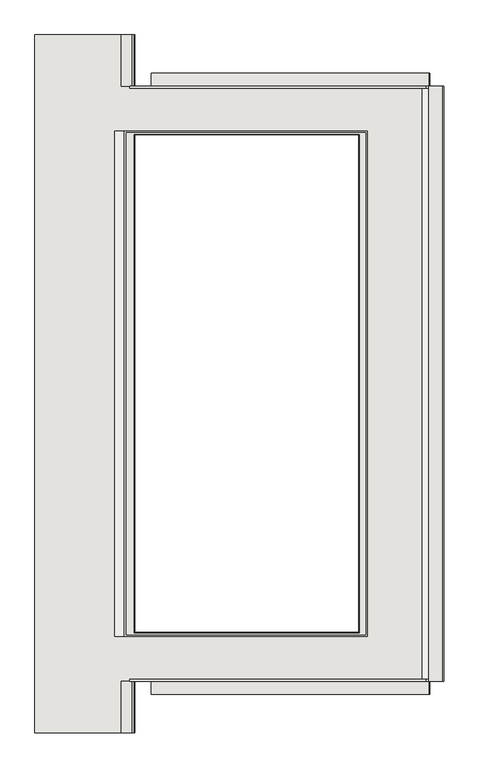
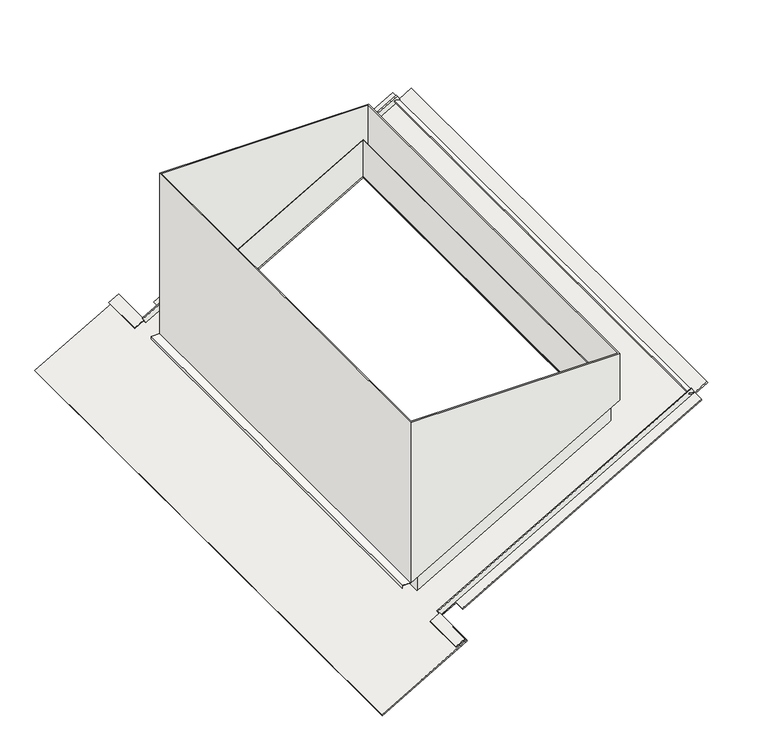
"""IFC4 building model written with IfcOpenShell, lengths in millimetres: covering geometry, MG_BPL_Delta Discovery Air_mountingbox-CO_M&G : mountingbox DDA."""

from ifc_helpers import new_model, si_unit, frame, origin, place, context, project, spatial, polyline, outline, extrude, faceted_brep, source, transform, mapped, element, save


def covering_b66512e7(model_context):
    return source(origin(), model_context, "Body", "SolidModel", [
        extrude(outline(polyline([(0.0, 0.0), (0.0, -350.0), (-157.5, -350.0), (-157.5, -410.0), (-117.5, -410.0), (-117.5, -1390.9698687), (-157.5, -1390.9698687), (-157.5, -1440.9698687), (-1977.5, -1440.9698687), (-1977.5, -1390.9698687), (-2017.5, -1390.9698687), (-2017.5, -410.0), (-1977.5, -410.0), (-1977.5, -350.0), (-2135.0, -350.0), (-2135.0, 0.0), (0.0, 0.0)]), holes=[polyline([(-1827.5, -350.0), (-1827.5, -1140.9698688), (-307.5, -1140.9698688), (-307.5, -350.0), (-1827.5, -350.0)])]), frame((-303.1088913, 1067.5, -175.0), z_axis=(-0.4999999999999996, 0.0, 0.8660254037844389), x_axis=(0.0, 1.0, 0.0)), (0.0, 0.0, 1.0), 5.0),
        faceted_brep([(0.0, 760.0, 140.8734657), (0.0, 760.0, 0.0), (684.0, 760.0, 394.9075841), (684.0, 760.0, 535.7810498), (0.0, -760.0, 140.8734657), (0.0, -760.0, 0.0), (684.0, -760.0, 535.7810498), (684.0, -760.0, 394.9075841), (685.9866683, 762.0, 536.9280533), (685.9866683, 762.0, 396.0545876), (-2.0066659, 762.0, -1.1585491), (-2.0066659, 762.0, 139.7149166), (-2.0066659, -762.0, -1.1585491), (-2.0066659, -762.0, 139.7149166), (685.9866683, -762.0, 396.0545876), (685.9866683, -762.0, 536.9280533)], [[[0, 1, 2, 3]], [[1, 0, 4, 5]], [[5, 4, 6, 7]], [[7, 6, 3, 2]], [[8, 9, 10, 11]], [[11, 10, 12, 13]], [[13, 12, 14, 15]], [[9, 8, 15, 14]], [[10, 9, 14, 12], [2, 1, 5, 7]], [[8, 11, 13, 15], [0, 3, 6, 4]]]),
        faceted_brep([(710.9866683, -773.0, 654.7703766), (710.9866683, -773.0, 479.7703766), (710.9866683, 773.0, 479.7703766), (710.9866683, 773.0, 654.7703766), (-32.0066659, 773.0, 50.8029751), (-32.0066659, 773.0, 654.7703766), (-32.0066659, -773.0, 50.8029751), (-32.0066659, -773.0, 654.7703766), (-27.0066659, -768.0, 654.7703766), (-27.0066659, -768.0, 53.6897265), (-27.0066659, 768.0, 53.6897265), (-27.0066659, 768.0, 654.7703766), (705.9866683, 768.0, 476.8836253), (705.9866683, 768.0, 654.7703766), (705.9866683, -768.0, 476.8836253), (705.9866683, -768.0, 654.7703766)], [[[0, 1, 2, 3]], [[3, 2, 4, 5]], [[5, 4, 6, 7]], [[1, 0, 7, 6]], [[8, 9, 10, 11]], [[11, 10, 12, 13]], [[13, 12, 14, 15]], [[9, 8, 15, 14]], [[2, 1, 6, 4], [10, 9, 14, 12]], [[0, 3, 5, 7], [8, 11, 13, 15]]]),
        extrude(outline(polyline([(12.9903811, -7.5), (-7.0096189, -42.1410162), (-9.6076952, -40.6410162), (8.8923048, -8.5980762), (2.830127, -5.0980762), (4.330127, -2.5), (12.9903811, -7.5)])), frame((0.0, -1067.5, 0.0), z_axis=(0.0, 1.0, 0.0), x_axis=(0.0, 0.0, 1.0)), (0.0, 0.0, 1.0), 157.5),
        extrude(outline(polyline([(12.9903811, -7.5), (-7.0096189, -42.1410162), (-9.6076952, -40.6410162), (8.8923048, -8.5980762), (2.830127, -5.0980762), (4.330127, -2.5), (12.9903811, -7.5)])), frame((0.0, 910.0, 0.0), z_axis=(0.0, 1.0, 0.0), x_axis=(0.0, 0.0, 1.0)), (0.0, 0.0, 1.0), 157.5),
        extrude(outline(polyline([(51.8029751, -62.0066659), (41.8029751, -62.0066659), (41.8029751, -61.0066659), (50.8029751, -61.0066659), (50.8029751, -32.0066659), (51.8029751, -32.0066659), (51.8029751, -62.0066659)])), frame((0.0, -773.0, 0.0), z_axis=(0.0, 1.0, 0.0), x_axis=(0.0, 0.0, 1.0)), (0.0, 0.0, 1.0), 1546.0),
        extrude(outline(polyline([(0.0, -20.0), (0.0, 0.0), (1820.0, 0.0), (1820.0, -20.0), (0.0, -20.0)])), frame((878.3937392, -910.0, 525.1618132), z_axis=(0.25881904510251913, 0.0, 0.9659258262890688), x_axis=(0.0, 1.0, 0.0)), (0.0, 0.0, 1.0), 5.0),
        extrude(outline(polyline([(0.0, -5.0), (0.0, 0.0), (1043.9698687, 0.0), (1043.9698687, -5.0), (0.0, -5.0)])), frame((899.0063509, 905.0, 524.8150614), z_axis=(-0.4999999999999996, 0.0, 0.8660254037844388), x_axis=(-0.8660254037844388, 0.0, -0.4999999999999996)), (0.0, 0.0, 1.0), 20.0),
        extrude(outline(polyline([(0.0, -5.0), (0.0, 0.0), (1043.9698687, 0.0), (1043.9698687, -5.0), (0.0, -5.0)])), frame((-5.0980762, -905.0, 2.830127), z_axis=(-0.49999999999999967, 0.0, 0.8660254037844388), x_axis=(0.8660254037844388, 0.0, 0.49999999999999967)), (0.0, 0.0, 1.0), 20.0),
    ])


if __name__ == "__main__":
    model = new_model("IFC4")
    model_context = context("Model", 3, world=origin())
    ifc_project = project(units=[si_unit("LENGTHUNIT", "METRE", prefix="MILLI")], contexts=[model_context])
    site = spatial("IfcSite", under=ifc_project)
    building = spatial("IfcBuilding", under=site)
    placement = place(None, origin())
    covering_shape = covering_b66512e7(model_context)
    element("IfcCovering", 1, ObjectType="MG_BPL_Delta Discovery Air_mountingbox-CO_M&G : mountingbox DDA", at=placement, inside=building, context=model_context, shape_type="MappedRepresentation", body=[
        mapped(covering_shape, transform((0.0, 0.0, 0.0), x_axis=(1.0, 0.0, 0.0), y_axis=(0.0, 1.0, 0.0), z_axis=(0.0, 0.0, 1.0))),
    ])
    save(model, "model.ifc")
